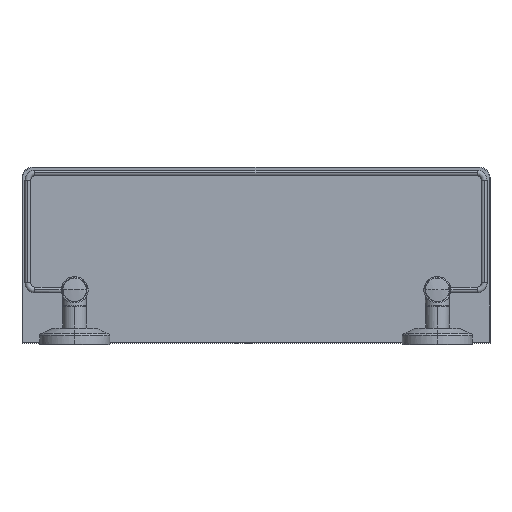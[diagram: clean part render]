
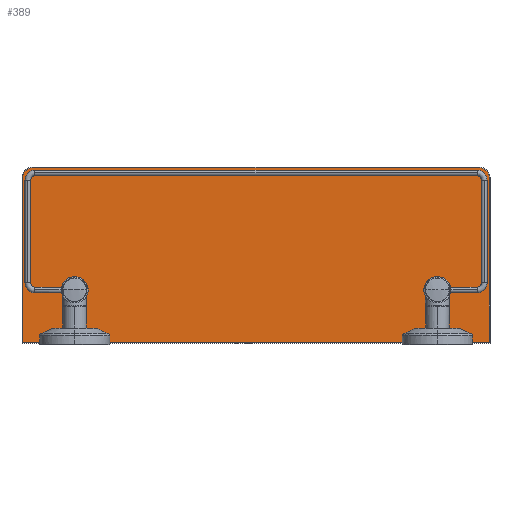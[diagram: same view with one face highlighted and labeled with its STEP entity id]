
A CAD part, top view. The second image highlights one B-rep face of the part: STEP entity #389.
In plain terms, the highlighted planar face has unit normal (0, 0, 1).
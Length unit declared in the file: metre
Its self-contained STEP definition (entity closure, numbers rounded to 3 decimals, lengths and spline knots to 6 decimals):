
#32=VERTEX_POINT('',#33);
#33=CARTESIAN_POINT('',(0.006,0.0329,-0.0631));
#39=EDGE_CURVE('',#40,#32,#42,.T.);
#40=VERTEX_POINT('',#41);
#41=CARTESIAN_POINT('',(-0.006,0.0329,-0.0631));
#42=CIRCLE('',#43,0.006);
#43=AXIS2_PLACEMENT_3D('',#44,#45,#46);
#44=CARTESIAN_POINT('',(0.0,0.0329,-0.0631));
#45=DIRECTION('',(0.0,0.0,-1.0));
#46=DIRECTION('',(-1.0,0.0,0.0));
#74=VERTEX_POINT('',#75);
#75=CARTESIAN_POINT('',(-0.304,0.0329,-0.0631));
#81=EDGE_CURVE('',#82,#74,#84,.T.);
#82=VERTEX_POINT('',#83);
#83=CARTESIAN_POINT('',(-0.316,0.0329,-0.0631));
#84=CIRCLE('',#85,0.006);
#85=AXIS2_PLACEMENT_3D('',#86,#87,#88);
#86=CARTESIAN_POINT('',(-0.31,0.0329,-0.0631));
#87=DIRECTION('',(0.0,0.0,-1.0));
#88=DIRECTION('',(-1.0,0.0,0.0));
#276=CARTESIAN_POINT('',(-0.304,0.0329,-0.0631));
#277=EDGE_CURVE('',#74,#82,#278,.T.);
#278=(B_SPLINE_CURVE(3,(#276,#279,#280,#281),.UNSPECIFIED.,.F.,.U.)B_SPLINE_CURVE_WITH_KNOTS(
  (4,4),(0.0,1.0),.UNSPECIFIED.)BOUNDED_CURVE()CURVE()GEOMETRIC_REPRESENTATION_ITEM(
  )RATIONAL_B_SPLINE_CURVE((1.0,0.333,0.333,1.0)
  )REPRESENTATION_ITEM(''));
#279=CARTESIAN_POINT('',(-0.304,0.0209,-0.0631));
#280=CARTESIAN_POINT('',(-0.316,0.0209,-0.0631));
#281=CARTESIAN_POINT('',(-0.316,0.0329,-0.0631));
#295=CARTESIAN_POINT('',(0.006,0.0329,-0.0631));
#296=EDGE_CURVE('',#32,#40,#297,.T.);
#297=(B_SPLINE_CURVE(3,(#295,#298,#299,#300),.UNSPECIFIED.,.F.,.U.)B_SPLINE_CURVE_WITH_KNOTS(
  (4,4),(0.0,1.0),.UNSPECIFIED.)BOUNDED_CURVE()CURVE()GEOMETRIC_REPRESENTATION_ITEM(
  )RATIONAL_B_SPLINE_CURVE((1.0,0.333,0.333,1.0)
  )REPRESENTATION_ITEM(''));
#298=CARTESIAN_POINT('',(0.006,0.0209,-0.0631));
#299=CARTESIAN_POINT('',(-0.006,0.0209,-0.0631));
#300=CARTESIAN_POINT('',(-0.006,0.0329,-0.0631));
#389=ADVANCED_FACE('',(#395,#447,#451),#390,.F.);
#390=PLANE('',#391);
#391=AXIS2_PLACEMENT_3D('',#392,#393,#394);
#392=CARTESIAN_POINT('',(-0.155,-0.0121,-0.0631));
#393=DIRECTION('',(0.0,0.0,-1.0));
#394=DIRECTION('',(0.0,-1.0,0.0));
#395=FACE_OUTER_BOUND('',#396,.T.);
#396=EDGE_LOOP('',(#397,#407,#415,#423,#432,#440));
#397=ORIENTED_EDGE('',*,*,#398,.T.);
#398=EDGE_CURVE('',#399,#401,#403,.T.);
#399=VERTEX_POINT('',#400);
#400=CARTESIAN_POINT('',(-0.3545,0.1289,-0.0631));
#401=VERTEX_POINT('',#402);
#402=CARTESIAN_POINT('',(-0.3545,-0.0116,-0.0631));
#403=LINE('',#404,#405);
#404=CARTESIAN_POINT('',(-0.3545,-0.0121,-0.0631));
#405=VECTOR('',#406,1.0);
#406=DIRECTION('',(0.0,-1.0,0.0));
#407=ORIENTED_EDGE('',*,*,#408,.T.);
#408=EDGE_CURVE('',#401,#409,#411,.T.);
#409=VERTEX_POINT('',#410);
#410=CARTESIAN_POINT('',(0.0445,-0.0116,-0.0631));
#411=LINE('',#412,#413);
#412=CARTESIAN_POINT('',(-0.155,-0.0116,-0.0631));
#413=VECTOR('',#414,1.0);
#414=DIRECTION('',(1.0,0.0,0.0));
#415=ORIENTED_EDGE('',*,*,#416,.T.);
#416=EDGE_CURVE('',#409,#417,#419,.T.);
#417=VERTEX_POINT('',#418);
#418=CARTESIAN_POINT('',(0.0445,0.1289,-0.0631));
#419=LINE('',#420,#421);
#420=CARTESIAN_POINT('',(0.0445,-0.0121,-0.0631));
#421=VECTOR('',#422,1.0);
#422=DIRECTION('',(0.0,1.0,0.0));
#423=ORIENTED_EDGE('',*,*,#424,.T.);
#424=EDGE_CURVE('',#417,#425,#427,.F.);
#425=VERTEX_POINT('',#426);
#426=CARTESIAN_POINT('',(0.036,0.1374,-0.0631));
#427=CIRCLE('',#428,0.0085);
#428=AXIS2_PLACEMENT_3D('',#429,#430,#431);
#429=CARTESIAN_POINT('',(0.036,0.1289,-0.0631));
#430=DIRECTION('',(0.0,0.0,-1.0));
#431=DIRECTION('',(-1.0,0.0,0.0));
#432=ORIENTED_EDGE('',*,*,#433,.T.);
#433=EDGE_CURVE('',#425,#434,#436,.T.);
#434=VERTEX_POINT('',#435);
#435=CARTESIAN_POINT('',(-0.346,0.1374,-0.0631));
#436=LINE('',#437,#438);
#437=CARTESIAN_POINT('',(-0.155,0.1374,-0.0631));
#438=VECTOR('',#439,1.0);
#439=DIRECTION('',(-1.0,0.0,0.0));
#440=ORIENTED_EDGE('',*,*,#441,.T.);
#441=EDGE_CURVE('',#434,#399,#442,.F.);
#442=CIRCLE('',#443,0.0085);
#443=AXIS2_PLACEMENT_3D('',#444,#445,#446);
#444=CARTESIAN_POINT('',(-0.346,0.1289,-0.0631));
#445=DIRECTION('',(0.0,0.0,-1.0));
#446=DIRECTION('',(-1.0,0.0,0.0));
#447=FACE_BOUND('',#448,.T.);
#448=EDGE_LOOP('',(#449,#450));
#449=ORIENTED_EDGE('',*,*,#39,.T.);
#450=ORIENTED_EDGE('',*,*,#296,.T.);
#451=FACE_BOUND('',#452,.T.);
#452=EDGE_LOOP('',(#453,#454));
#453=ORIENTED_EDGE('',*,*,#81,.T.);
#454=ORIENTED_EDGE('',*,*,#277,.T.);
